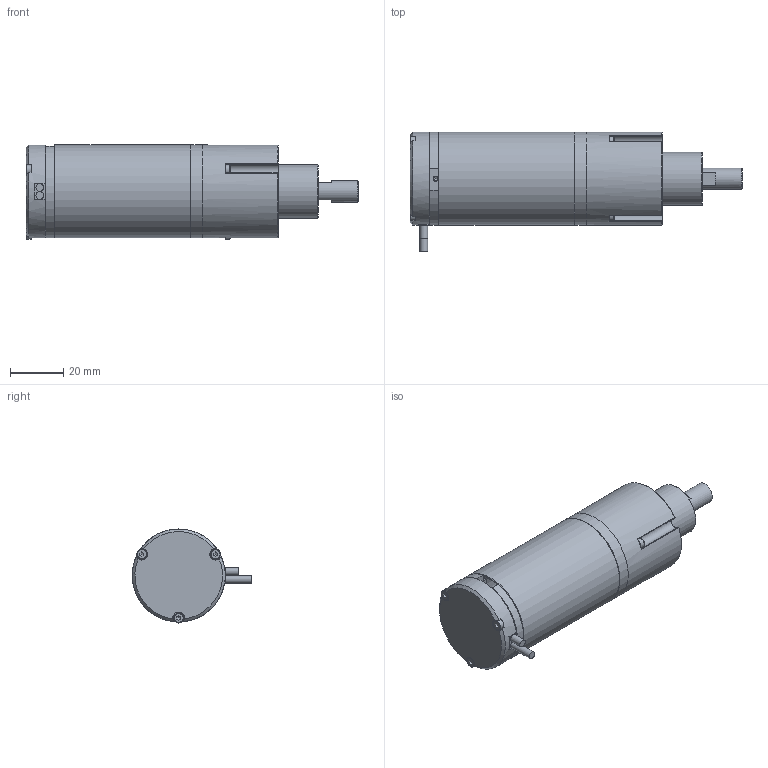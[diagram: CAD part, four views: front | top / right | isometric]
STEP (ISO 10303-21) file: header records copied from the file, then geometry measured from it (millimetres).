
FILE_DESCRIPTION((''),'2;1');
FILE_NAME('D:\SMAC-CAD\CBL\CBL35\CBL35-010\ASSY\CBL35-010-YY-3D_B.stp','2013-11-27T14:16:10',('ToanVu'),(''),'Autodesk Inventor 2008','Autodesk Inventor 2008','');
FILE_SCHEMA(('AUTOMOTIVE_DESIGN { 1 0 10303 214 1 1 1 1 }'));
Length unit declared in the file: millimetre
Products named in the file (10): CBL35-010-YY-3D_B; 18568-01_C; 14714-04_C; 14714-01_C; 14714-26_B; CBL35-CABLE; CA2-35-10COVER; CBL35CABLE-GRO; 21564-05_A; Broached Socket Head Cap Screw - Metric M2x0.4 x 3
Assembly tree (16 placements, depth 3):
  CBL35-010-YY-3D_B
    18568-01_C
    14714-04_C
    14714-01_C
    14714-26_B
    CBL35-CABLE
      CA2-35-10COVER
      CBL35CABLE-GRO
    21564-05_A
    Broached Socket Head Cap Screw - Metric M2x0.4 x 3  x8
Bounding box: 125 x 45 x 35.4 mm (x, y, z)
Volume: 49229.5 mm3; surface area: 32585.5 mm2
Topology: 15 solids, 15 shells, 329 faces, 800 edges, 510 vertices
Faces by surface type: plane 133, bspline 87, cylinder 62, cone 39, torus 8
Full cylindrical faces by diameter (mm): 2 x9, 2.9 x2, 3.8 x8, 4 x1, 6 x1, 8 x1, 10 x1, 10.5 x2, 11.5 x1, 15 x2, 16 x1, 18.4 x1, 20 x1, 27 x1, 35 x4
Entity records: 7521 total; most frequent: CARTESIAN_POINT 2500, DIRECTION 986, ORIENTED_EDGE 864, EDGE_CURVE 432, AXIS2_PLACEMENT_3D 420, EDGE_LOOP 376, VERTEX_POINT 323, CIRCLE 250
